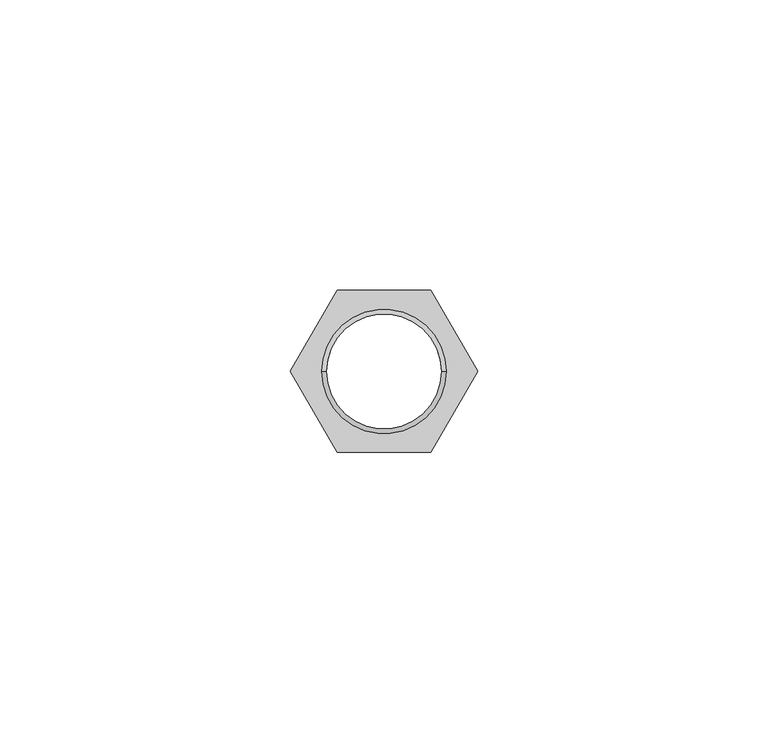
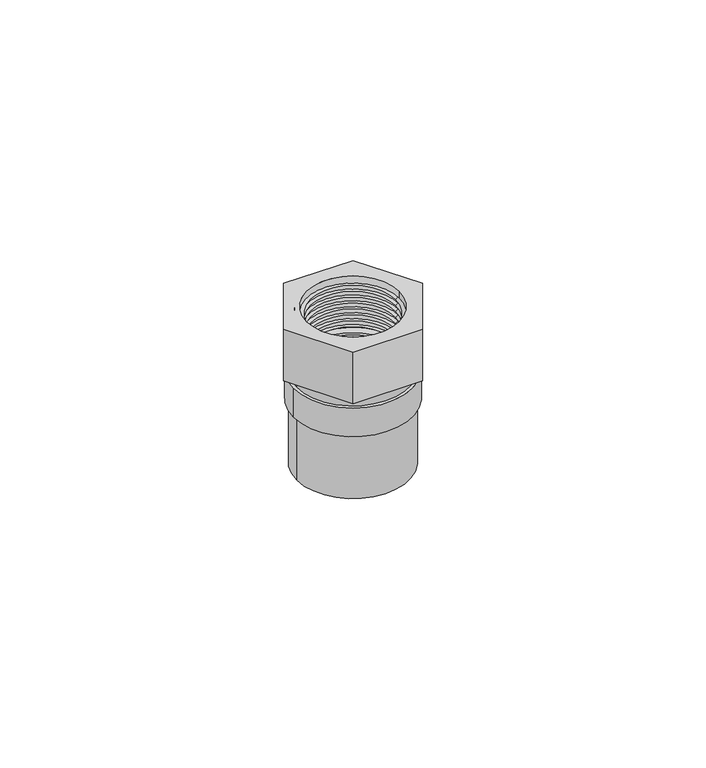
"""IFC4 building model written with IfcOpenShell, lengths in millimetres: valve geometry, Adaptador Hembra con Ins Metalico_Lubrizol_CPVC_FlowGuard_MX 19mm : Adaptador Hembra con Ins Metalico_Lubrizol_CPVC_FlowGuard_MX 19mm."""

from ifc_helpers import new_model, si_unit, point, frame, origin, origin_with_axes, origin_2d, place, context, project, spatial, polyline, circle_curve, trimmed, segment, composite_curve, outline, extrude, source, transform, mapped, element, save
from ifc_brep_helpers import plane_surface, cylinder_surface, revolved_surface, advanced_brep


def valve_6d2ca414(model_context):
    return source(origin(), model_context, "Body", "SolidModel", [
        extrude(outline(composite_curve([segment(trimmed(circle_curve(origin_2d(), 13.0), [point((-13.0, 0.0))], [point((13.0, 0.0))], False, "CARTESIAN"), True, "CONTINUOUS"), segment(trimmed(circle_curve(origin_2d(), 13.0), [point((13.0, 0.0))], [point((-13.0, 0.0))], False, "CARTESIAN"), True, "CONTINUOUS")], self_intersect=False), holes=[composite_curve([segment(trimmed(circle_curve(origin_2d(), 11.8312977), [point((-11.8312977, 0.0))], [point((11.8312977, 0.0))], True, "CARTESIAN"), True, "CONTINUOUS"), segment(trimmed(circle_curve(origin_2d(), 11.8312977), [point((11.8312977, 0.0))], [point((-11.8312977, 0.0))], True, "CARTESIAN"), True, "CONTINUOUS")], self_intersect=False)]), frame((0.0, 0.0, 22.7510392), z_axis=(0.0, 0.0, 1.0), x_axis=(1.0, 0.0, 0.0)), (0.0, 0.0, 1.0), 2.6504952),
        extrude(outline(composite_curve([segment(trimmed(circle_curve(origin_2d(), 13.7606848), [point((-13.7606848, 0.0))], [point((13.7606848, 0.0))], False, "CARTESIAN"), True, "CONTINUOUS"), segment(trimmed(circle_curve(origin_2d(), 13.7606848), [point((13.7606848, 0.0))], [point((-13.7606848, 0.0))], False, "CARTESIAN"), True, "CONTINUOUS")], self_intersect=False), holes=[composite_curve([segment(trimmed(circle_curve(origin_2d(), 11.1), [point((-11.1, 0.0))], [point((11.1, 0.0))], True, "CARTESIAN"), True, "CONTINUOUS"), segment(trimmed(circle_curve(origin_2d(), 11.1), [point((11.1, 0.0))], [point((-11.1, 0.0))], True, "CARTESIAN"), True, "CONTINUOUS")], self_intersect=False)]), frame((0.0, 0.0, 15.7086101), z_axis=(0.0, 0.0, 1.0), x_axis=(1.0, 0.0, 0.0)), (0.0, 0.0, 1.0), 7.0424292),
        extrude(outline(polyline([(-8.0465961, -13.9371133), (-16.0931922, 0.0), (-8.0465961, 13.9371133), (8.0465961, 13.9371133), (16.0931922, 0.0), (8.0465961, -13.9371133), (-8.0465961, -13.9371133)]), holes=[composite_curve([segment(trimmed(circle_curve(origin_2d(), 10.7), [point((-10.7, 0.0))], [point((10.7, 0.0))], True, "CARTESIAN"), True, "CONTINUOUS"), segment(trimmed(circle_curve(origin_2d(), 10.7), [point((10.7, 0.0))], [point((-10.7, 0.0))], True, "CARTESIAN"), True, "CONTINUOUS")], self_intersect=False)]), frame((0.0, 0.0, 25.4015344), z_axis=(0.0, 0.0, 1.0), x_axis=(1.0, 0.0, 0.0)), (0.0, 0.0, 1.0), 12.5984656),
        advanced_brep(
        [(11.8312977, 0.0, 38.0), (-11.8312977, 0.0, 38.0), (-10.9804934, 0.0, 38.0), (10.9804934, 0.0, 38.0), (11.8312977, 0.0, 24.0), (-11.8312977, 0.0, 24.0), (10.8841551, 0.0, 24.0), (-10.8841551, 0.0, 24.0), (9.9167808, 0.0, 24.6773628), (-9.9167808, 0.0, 24.6773628), (10.951005, 0.0, 25.4015344), (-10.951005, 0.0, 25.4015344), (9.9167808, 0.0, 26.125706), (-9.9167808, 0.0, 26.125706), (10.951005, 0.0, 26.8498777), (-10.951005, 0.0, 26.8498777), (9.9167808, 0.0, 27.5740493), (-9.9167808, 0.0, 27.5740493), (10.951005, 0.0, 28.2982209), (-10.951005, 0.0, 28.2982209), (9.9167808, 0.0, 29.0223925), (-9.9167808, 0.0, 29.0223925), (10.951005, 0.0, 29.7465641), (-10.951005, 0.0, 29.7465641), (9.9167808, 0.0, 30.4707358), (-9.9167808, 0.0, 30.4707358), (10.951005, 0.0, 31.1949074), (-10.951005, 0.0, 31.1949074), (9.9167808, 0.0, 31.919079), (-9.9167808, 0.0, 31.919079), (10.951005, 0.0, 32.6432506), (-10.951005, 0.0, 32.6432506), (9.9167808, 0.0, 33.3674223), (-9.9167808, 0.0, 33.3674223), (10.951005, 0.0, 34.0915939), (-10.951005, 0.0, 34.0915939), (9.9167808, 0.0, 34.8157655), (-9.9167808, 0.0, 34.8157655), (10.951005, 0.0, 35.5399371), (-10.951005, 0.0, 35.5399371), (9.9167808, 0.0, 36.2641088), (-9.9167808, 0.0, 36.2641088), (10.9804934, 0.0, 37.0089284), (-10.9804934, 0.0, 37.0089284)],
        [
            (0, 1, circle_curve(frame((0.0, 0.0, 38.0), z_axis=(0.0, 0.0, 1.0), x_axis=(-1.0, 0.0, 0.0)), 11.8312977)),
            (1, 2),
            (2, 3, circle_curve(frame((0.0, 0.0, 38.0), z_axis=(0.0, 0.0, -1.0), x_axis=(-1.0, 0.0, 0.0)), 10.9804934)),
            (3, 0),
            (1, 0, circle_curve(frame((0.0, 0.0, 38.0), z_axis=(0.0, 0.0, 1.0), x_axis=(-1.0, 0.0, 0.0)), 11.8312977)),
            (3, 2, circle_curve(frame((0.0, 0.0, 38.0), z_axis=(0.0, 0.0, -1.0), x_axis=(-1.0, 0.0, 0.0)), 10.9804934)),
            (4, 5, circle_curve(frame((0.0, 0.0, 24.0), z_axis=(0.0, 0.0, 1.0), x_axis=(-1.0, 0.0, 0.0)), 11.8312977)),
            (5, 1),
            (0, 4),
            (5, 4, circle_curve(frame((0.0, 0.0, 24.0), z_axis=(0.0, 0.0, 1.0), x_axis=(-1.0, 0.0, 0.0)), 11.8312977)),
            (6, 7, circle_curve(frame((0.0, 0.0, 24.0), z_axis=(0.0, 0.0, 1.0), x_axis=(-1.0, 0.0, 0.0)), 10.8841551)),
            (7, 5),
            (4, 6),
            (7, 6, circle_curve(frame((0.0, 0.0, 24.0), z_axis=(0.0, 0.0, 1.0), x_axis=(-1.0, 0.0, 0.0)), 10.8841551)),
            (8, 9, circle_curve(frame((0.0, 0.0, 24.6773628), z_axis=(0.0, 0.0, 1.0), x_axis=(-1.0, 0.0, 0.0)), 9.9167808)),
            (9, 7),
            (6, 8),
            (9, 8, circle_curve(frame((0.0, 0.0, 24.6773628), z_axis=(0.0, 0.0, 1.0), x_axis=(-1.0, 0.0, 0.0)), 9.9167808)),
            (10, 11, circle_curve(frame((0.0, 0.0, 25.4015344), z_axis=(0.0, 0.0, 1.0), x_axis=(-1.0, 0.0, 0.0)), 10.951005)),
            (11, 9),
            (8, 10),
            (11, 10, circle_curve(frame((0.0, 0.0, 25.4015344), z_axis=(0.0, 0.0, 1.0), x_axis=(-1.0, 0.0, 0.0)), 10.951005)),
            (12, 13, circle_curve(frame((0.0, 0.0, 26.125706), z_axis=(0.0, 0.0, 1.0), x_axis=(-1.0, 0.0, 0.0)), 9.9167808)),
            (13, 11),
            (10, 12),
            (13, 12, circle_curve(frame((0.0, 0.0, 26.125706), z_axis=(0.0, 0.0, 1.0), x_axis=(-1.0, 0.0, 0.0)), 9.9167808)),
            (14, 15, circle_curve(frame((0.0, 0.0, 26.8498777), z_axis=(0.0, 0.0, 1.0), x_axis=(-1.0, 0.0, 0.0)), 10.951005)),
            (15, 13),
            (12, 14),
            (15, 14, circle_curve(frame((0.0, 0.0, 26.8498777), z_axis=(0.0, 0.0, 1.0), x_axis=(-1.0, 0.0, 0.0)), 10.951005)),
            (16, 17, circle_curve(frame((0.0, 0.0, 27.5740493), z_axis=(0.0, 0.0, 1.0), x_axis=(-1.0, 0.0, 0.0)), 9.9167808)),
            (17, 15),
            (14, 16),
            (17, 16, circle_curve(frame((0.0, 0.0, 27.5740493), z_axis=(0.0, 0.0, 1.0), x_axis=(-1.0, 0.0, 0.0)), 9.9167808)),
            (18, 19, circle_curve(frame((0.0, 0.0, 28.2982209), z_axis=(0.0, 0.0, 1.0), x_axis=(-1.0, 0.0, 0.0)), 10.951005)),
            (19, 17),
            (16, 18),
            (19, 18, circle_curve(frame((0.0, 0.0, 28.2982209), z_axis=(0.0, 0.0, 1.0), x_axis=(-1.0, 0.0, 0.0)), 10.951005)),
            (20, 21, circle_curve(frame((0.0, 0.0, 29.0223925), z_axis=(0.0, 0.0, 1.0), x_axis=(-1.0, 0.0, 0.0)), 9.9167808)),
            (21, 19),
            (18, 20),
            (21, 20, circle_curve(frame((0.0, 0.0, 29.0223925), z_axis=(0.0, 0.0, 1.0), x_axis=(-1.0, 0.0, 0.0)), 9.9167808)),
            (22, 23, circle_curve(frame((0.0, 0.0, 29.7465641), z_axis=(0.0, 0.0, 1.0), x_axis=(-1.0, 0.0, 0.0)), 10.951005)),
            (23, 21),
            (20, 22),
            (23, 22, circle_curve(frame((0.0, 0.0, 29.7465641), z_axis=(0.0, 0.0, 1.0), x_axis=(-1.0, 0.0, 0.0)), 10.951005)),
            (24, 25, circle_curve(frame((0.0, 0.0, 30.4707358), z_axis=(0.0, 0.0, 1.0), x_axis=(-1.0, 0.0, 0.0)), 9.9167808)),
            (25, 23),
            (22, 24),
            (25, 24, circle_curve(frame((0.0, 0.0, 30.4707358), z_axis=(0.0, 0.0, 1.0), x_axis=(-1.0, 0.0, 0.0)), 9.9167808)),
            (26, 27, circle_curve(frame((0.0, 0.0, 31.1949074), z_axis=(0.0, 0.0, 1.0), x_axis=(-1.0, 0.0, 0.0)), 10.951005)),
            (27, 25),
            (24, 26),
            (27, 26, circle_curve(frame((0.0, 0.0, 31.1949074), z_axis=(0.0, 0.0, 1.0), x_axis=(-1.0, 0.0, 0.0)), 10.951005)),
            (28, 29, circle_curve(frame((0.0, 0.0, 31.919079), z_axis=(0.0, 0.0, 1.0), x_axis=(-1.0, 0.0, 0.0)), 9.9167808)),
            (29, 27),
            (26, 28),
            (29, 28, circle_curve(frame((0.0, 0.0, 31.919079), z_axis=(0.0, 0.0, 1.0), x_axis=(-1.0, 0.0, 0.0)), 9.9167808)),
            (30, 31, circle_curve(frame((0.0, 0.0, 32.6432506), z_axis=(0.0, 0.0, 1.0), x_axis=(-1.0, 0.0, 0.0)), 10.951005)),
            (31, 29),
            (28, 30),
            (31, 30, circle_curve(frame((0.0, 0.0, 32.6432506), z_axis=(0.0, 0.0, 1.0), x_axis=(-1.0, 0.0, 0.0)), 10.951005)),
            (32, 33, circle_curve(frame((0.0, 0.0, 33.3674223), z_axis=(0.0, 0.0, 1.0), x_axis=(-1.0, 0.0, 0.0)), 9.9167808)),
            (33, 31),
            (30, 32),
            (33, 32, circle_curve(frame((0.0, 0.0, 33.3674223), z_axis=(0.0, 0.0, 1.0), x_axis=(-1.0, 0.0, 0.0)), 9.9167808)),
            (34, 35, circle_curve(frame((0.0, 0.0, 34.0915939), z_axis=(0.0, 0.0, 1.0), x_axis=(-1.0, 0.0, 0.0)), 10.951005)),
            (35, 33),
            (32, 34),
            (35, 34, circle_curve(frame((0.0, 0.0, 34.0915939), z_axis=(0.0, 0.0, 1.0), x_axis=(-1.0, 0.0, 0.0)), 10.951005)),
            (36, 37, circle_curve(frame((0.0, 0.0, 34.8157655), z_axis=(0.0, 0.0, 1.0), x_axis=(-1.0, 0.0, 0.0)), 9.9167808)),
            (37, 35),
            (34, 36),
            (37, 36, circle_curve(frame((0.0, 0.0, 34.8157655), z_axis=(0.0, 0.0, 1.0), x_axis=(-1.0, 0.0, 0.0)), 9.9167808)),
            (38, 39, circle_curve(frame((0.0, 0.0, 35.5399371), z_axis=(0.0, 0.0, 1.0), x_axis=(-1.0, 0.0, 0.0)), 10.951005)),
            (39, 37),
            (36, 38),
            (39, 38, circle_curve(frame((0.0, 0.0, 35.5399371), z_axis=(0.0, 0.0, 1.0), x_axis=(-1.0, 0.0, 0.0)), 10.951005)),
            (40, 41, circle_curve(frame((0.0, 0.0, 36.2641088), z_axis=(0.0, 0.0, 1.0), x_axis=(-1.0, 0.0, 0.0)), 9.9167808)),
            (41, 39),
            (38, 40),
            (41, 40, circle_curve(frame((0.0, 0.0, 36.2641088), z_axis=(0.0, 0.0, 1.0), x_axis=(-1.0, 0.0, 0.0)), 9.9167808)),
            (42, 43, circle_curve(frame((0.0, 0.0, 37.0089284), z_axis=(0.0, 0.0, 1.0), x_axis=(-1.0, 0.0, 0.0)), 10.9804934)),
            (43, 41),
            (40, 42),
            (43, 42, circle_curve(frame((0.0, 0.0, 37.0089284), z_axis=(0.0, 0.0, 1.0), x_axis=(-1.0, 0.0, 0.0)), 10.9804934)),
            (2, 43),
            (42, 3),
        ],
        [
            plane_surface(frame((0.0, 0.0, 38.0), z_axis=(0.0, 0.0, 1.0), x_axis=(-1.0, 0.0, 0.0))),
            cylinder_surface(frame((0.0, 0.0, 32.7589883), z_axis=(0.0, 0.0, -1.0), x_axis=(-1.0, 0.0, 0.0)), 11.8312977),
            plane_surface(frame((0.0, 0.0, 24.0), z_axis=(0.0, 0.0, -1.0), x_axis=(-1.0, 0.0, 0.0))),
            revolved_surface(polyline([(-10.8841551, 0.0, 24.0), (-9.9167808, 0.0, 24.6773628)]), (0.0, 0.0, 32.7589883), (0.0, 0.0, -1.0)),
            revolved_surface(polyline([(-9.9167808, 0.0, 24.6773628), (-10.951005, 0.0, 25.4015344)]), (0.0, 0.0, 32.7589883), (0.0, 0.0, -1.0)),
            revolved_surface(polyline([(-10.951005, 0.0, 25.4015344), (-9.9167808, 0.0, 26.125706)]), (0.0, 0.0, 32.7589883), (0.0, 0.0, -1.0)),
            revolved_surface(polyline([(-9.9167808, 0.0, 26.125706), (-10.951005, 0.0, 26.8498777)]), (0.0, 0.0, 32.7589883), (0.0, 0.0, -1.0)),
            revolved_surface(polyline([(-10.951005, 0.0, 26.8498777), (-9.9167808, 0.0, 27.5740493)]), (0.0, 0.0, 32.7589883), (0.0, 0.0, -1.0)),
            revolved_surface(polyline([(-9.9167808, 0.0, 27.5740493), (-10.951005, 0.0, 28.2982209)]), (0.0, 0.0, 32.7589883), (0.0, 0.0, -1.0)),
            revolved_surface(polyline([(-10.951005, 0.0, 28.2982209), (-9.9167808, 0.0, 29.0223925)]), (0.0, 0.0, 32.7589883), (0.0, 0.0, -1.0)),
            revolved_surface(polyline([(-9.9167808, 0.0, 29.0223925), (-10.951005, 0.0, 29.7465641)]), (0.0, 0.0, 32.7589883), (0.0, 0.0, -1.0)),
            revolved_surface(polyline([(-10.951005, 0.0, 29.7465641), (-9.9167808, 0.0, 30.4707358)]), (0.0, 0.0, 32.7589883), (0.0, 0.0, -1.0)),
            revolved_surface(polyline([(-9.9167808, 0.0, 30.4707358), (-10.951005, 0.0, 31.1949074)]), (0.0, 0.0, 32.7589883), (0.0, 0.0, -1.0)),
            revolved_surface(polyline([(-10.951005, 0.0, 31.1949074), (-9.9167808, 0.0, 31.919079)]), (0.0, 0.0, 32.7589883), (0.0, 0.0, -1.0)),
            revolved_surface(polyline([(-9.9167808, 0.0, 31.919079), (-10.951005, 0.0, 32.6432506)]), (0.0, 0.0, 32.7589883), (0.0, 0.0, -1.0)),
            revolved_surface(polyline([(-10.951005, 0.0, 32.6432506), (-9.9167808, 0.0, 33.3674223)]), (0.0, 0.0, 32.7589883), (0.0, 0.0, -1.0)),
            revolved_surface(polyline([(-9.9167808, 0.0, 33.3674223), (-10.951005, 0.0, 34.0915939)]), (0.0, 0.0, 32.7589883), (0.0, 0.0, -1.0)),
            revolved_surface(polyline([(-10.951005, 0.0, 34.0915939), (-9.9167808, 0.0, 34.8157655)]), (0.0, 0.0, 32.7589883), (0.0, 0.0, -1.0)),
            revolved_surface(polyline([(-9.9167808, 0.0, 34.8157655), (-10.951005, 0.0, 35.5399371)]), (0.0, 0.0, 32.7589883), (0.0, 0.0, -1.0)),
            revolved_surface(polyline([(-10.951005, 0.0, 35.5399371), (-9.9167808, 0.0, 36.2641088)]), (0.0, 0.0, 32.7589883), (0.0, 0.0, -1.0)),
            revolved_surface(polyline([(-9.9167808, 0.0, 36.2641088), (-10.9804934, 0.0, 37.0089284)]), (0.0, 0.0, 32.7589883), (0.0, 0.0, -1.0)),
            revolved_surface(polyline([(-10.9804934, 0.0, 37.0089284), (-10.9804934, 0.0, 38.0)]), (0.0, 0.0, 32.7589883), (0.0, 0.0, -1.0)),
        ],
        [
            (0, [[1, 2, 3, 4]]),
            (0, [[5, -4, 6, -2]]),
            (1, [[7, 8, -1, 9]]),
            (1, [[10, -9, -5, -8]]),
            (2, [[11, 12, -7, 13]]),
            (2, [[14, -13, -10, -12]]),
            (3, [[15, 16, -11, 17]]),
            (3, [[18, -17, -14, -16]]),
            (4, [[19, 20, -15, 21]]),
            (4, [[22, -21, -18, -20]]),
            (5, [[23, 24, -19, 25]]),
            (5, [[26, -25, -22, -24]]),
            (6, [[27, 28, -23, 29]]),
            (6, [[30, -29, -26, -28]]),
            (7, [[31, 32, -27, 33]]),
            (7, [[34, -33, -30, -32]]),
            (8, [[35, 36, -31, 37]]),
            (8, [[38, -37, -34, -36]]),
            (9, [[39, 40, -35, 41]]),
            (9, [[42, -41, -38, -40]]),
            (10, [[43, 44, -39, 45]]),
            (10, [[46, -45, -42, -44]]),
            (11, [[47, 48, -43, 49]]),
            (11, [[50, -49, -46, -48]]),
            (12, [[51, 52, -47, 53]]),
            (12, [[54, -53, -50, -52]]),
            (13, [[55, 56, -51, 57]]),
            (13, [[58, -57, -54, -56]]),
            (14, [[59, 60, -55, 61]]),
            (14, [[62, -61, -58, -60]]),
            (15, [[63, 64, -59, 65]]),
            (15, [[66, -65, -62, -64]]),
            (16, [[67, 68, -63, 69]]),
            (16, [[70, -69, -66, -68]]),
            (17, [[71, 72, -67, 73]]),
            (17, [[74, -73, -70, -72]]),
            (18, [[75, 76, -71, 77]]),
            (18, [[78, -77, -74, -76]]),
            (19, [[79, 80, -75, 81]]),
            (19, [[82, -81, -78, -80]]),
            (20, [[83, 84, -79, 85]]),
            (20, [[86, -85, -82, -84]]),
            (21, [[-3, 87, -83, 88]]),
            (21, [[-6, -88, -86, -87]]),
        ],
    ),
        extrude(outline(composite_curve([segment(trimmed(circle_curve(origin_2d(), 13.0), [point((-13.0, 0.0))], [point((13.0, 0.0))], False, "CARTESIAN"), True, "CONTINUOUS"), segment(trimmed(circle_curve(origin_2d(), 13.0), [point((13.0, 0.0))], [point((-13.0, 0.0))], False, "CARTESIAN"), True, "CONTINUOUS")], self_intersect=False), holes=[composite_curve([segment(trimmed(circle_curve(origin_2d(), 11.1), [point((-11.1, 0.0))], [point((11.1, 0.0))], True, "CARTESIAN"), True, "CONTINUOUS"), segment(trimmed(circle_curve(origin_2d(), 11.1), [point((11.1, 0.0))], [point((-11.1, 0.0))], True, "CARTESIAN"), True, "CONTINUOUS")], self_intersect=False)]), origin_with_axes(), (0.0, 0.0, 1.0), 15.7086101),
    ])


if __name__ == "__main__":
    model = new_model("IFC4")
    model_context = context("Model", 3, world=origin())
    ifc_project = project(units=[si_unit("LENGTHUNIT", "METRE", prefix="MILLI")], contexts=[model_context])
    site = spatial("IfcSite", under=ifc_project)
    building = spatial("IfcBuilding", under=site)
    placement = place(None, origin())
    valve_shape = valve_6d2ca414(model_context)
    element("IfcValve", 1, ObjectType="Adaptador Hembra con Ins Metalico_Lubrizol_CPVC_FlowGuard_MX 19mm : Adaptador Hembra con Ins Metalico_Lubrizol_CPVC_FlowGuard_MX 19mm", at=placement, inside=building, context=model_context, shape_type="MappedRepresentation", body=[
        mapped(valve_shape, transform((0.0, 0.0, 0.0), x_axis=(1.0, 0.0, 0.0), y_axis=(0.0, 1.0, 0.0), z_axis=(0.0, 0.0, 1.0))),
    ])
    save(model, "model.ifc")
